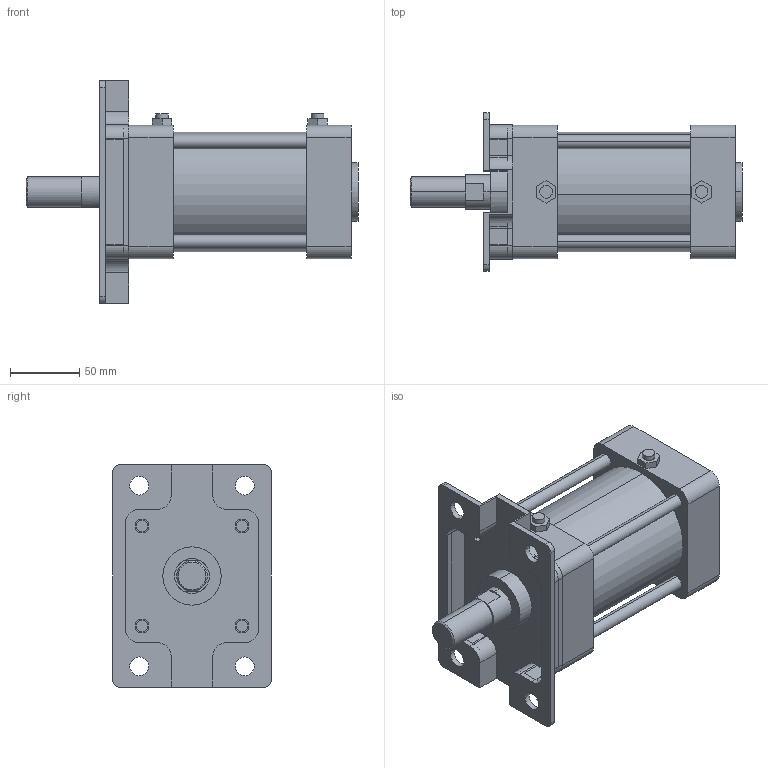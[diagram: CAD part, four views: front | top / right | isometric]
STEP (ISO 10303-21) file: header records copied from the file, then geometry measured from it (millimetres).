
FILE_DESCRIPTION (( 'STEP AP203' ), '1' );
FILE_NAME ('KG2-80-50-A.STEP', '2016-04-01T08:18:39', ( '' ), ( '' ), 'SwSTEP 2.0', 'SolidWorks 2014', '' );
FILE_SCHEMA (( 'CONFIG_CONTROL_DESIGN' ));
Length unit declared in the file: millimetre
Products named in the file (7): KGLH2-80-50; KG2-80-After; KG2-80-50-A; K-80-AB
Assembly tree (16 placements, depth 2):
  KG2-80-50-A
    KG2-80-After
    KGLH2-80-50
    (unnamed)
    (unnamed)  x4
    (unnamed)  x8
    K-80-AB
Bounding box: 239 x 114 x 160 mm (x, y, z)
Volume: 1123151.3 mm3; surface area: 220837.5 mm2
Topology: 16 solids, 16 shells, 377 faces, 926 edges, 596 vertices
Faces by surface type: plane 163, cylinder 156, torus 32, cone 26
Entity records: 9927 total; most frequent: CARTESIAN_POINT 1652, DIRECTION 1596, ORIENTED_EDGE 1472, EDGE_CURVE 736, AXIS2_PLACEMENT_3D 582, VERTEX_POINT 486, VECTOR 432, LINE 432
